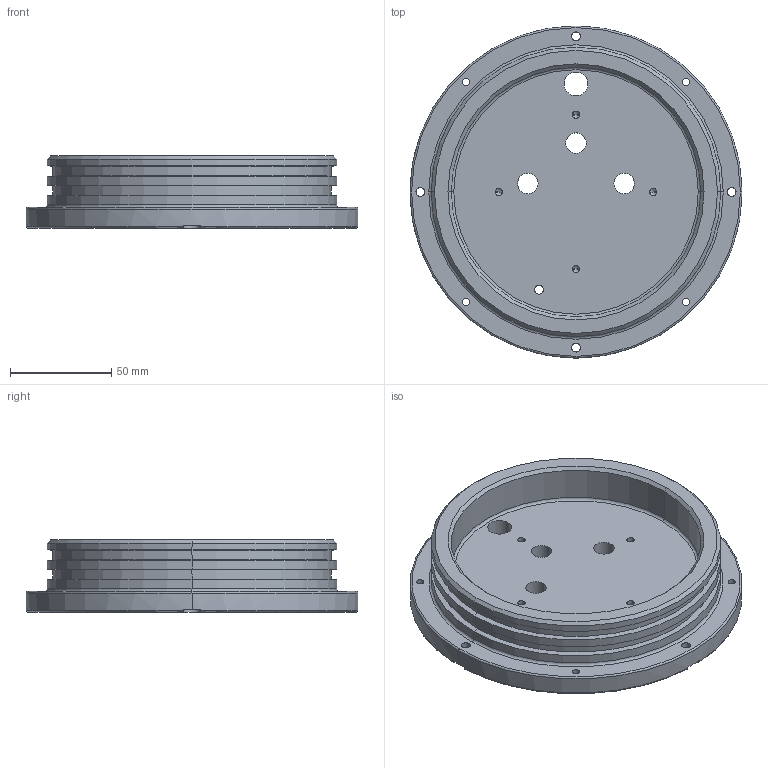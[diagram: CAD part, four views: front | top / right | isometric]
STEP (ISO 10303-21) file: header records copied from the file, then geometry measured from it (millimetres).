
FILE_DESCRIPTION (( 'STEP AP203' ), '1' );
FILE_NAME ('100222007-2 Housing B Connector Endcap, Sediment_A.STEP', '2023-09-14T16:46:36', ( '' ), ( '' ), 'SwSTEP 2.0', 'SolidWorks 2023', '' );
FILE_SCHEMA (( 'CONFIG_CONTROL_DESIGN' ));
Length unit declared in the file: inch
Products named in the file (1): 100222007-2 Housing B Connector Endcap, Sediment_A
Bounding box: 163.83 x 163.83 x 35.56 mm (x, y, z)
Volume: 371402.4 mm3; surface area: 72287.4 mm2
Topology: 1 solids, 1 shells, 301 faces, 779 edges, 501 vertices
Faces by surface type: plane 112, bspline 86, cylinder 67, cone 26, torus 10
Entity records: 14380 total; most frequent: CARTESIAN_POINT 7410, ORIENTED_EDGE 1538, DIRECTION 1187, EDGE_CURVE 769, VERTEX_POINT 501, LINE 423, VECTOR 423, AXIS2_PLACEMENT_3D 382
